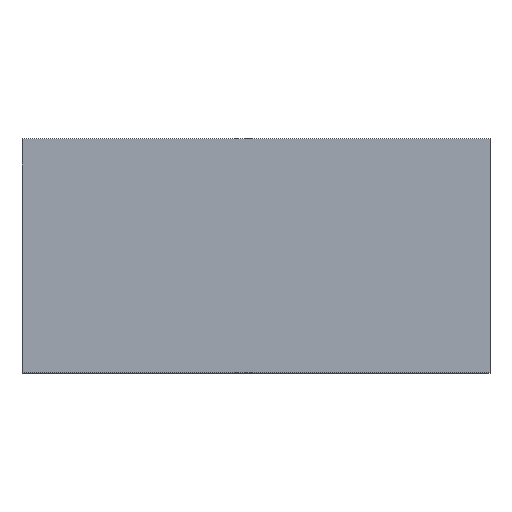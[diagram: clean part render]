
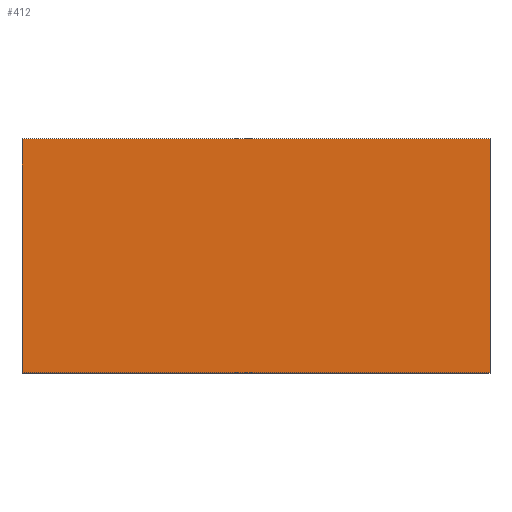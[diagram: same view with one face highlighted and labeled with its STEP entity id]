
A CAD part, top view. The second image highlights one B-rep face of the part: STEP entity #412.
In plain terms, the highlighted planar face has unit normal (0, 0, 1) as drawn and (0, 0, -1) by its records, which use the part's own axes.
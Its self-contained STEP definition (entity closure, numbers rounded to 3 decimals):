
#412=ADVANCED_FACE('',(#795),#797,.F.);
#795=FACE_BOUND('',#796,.T.);
#796=EDGE_LOOP('',(#1055,#1056,#1057,#1058));
#797=PLANE('',#798);
#798=AXIS2_PLACEMENT_3D('',#799,#800,#801);
#799=CARTESIAN_POINT('',(0.,0.,-0.025));
#800=DIRECTION('',(0.,0.,1.));
#801=DIRECTION('',(1.,0.,0.));
#1055=ORIENTED_EDGE('',*,*,#1219,.F.);
#1056=ORIENTED_EDGE('',*,*,#1216,.F.);
#1057=ORIENTED_EDGE('',*,*,#1213,.F.);
#1058=ORIENTED_EDGE('',*,*,#1209,.F.);
#1209=EDGE_CURVE('',#1352,#1353,#1354,.T.);
#1213=EDGE_CURVE('',#1353,#1360,#1361,.T.);
#1216=EDGE_CURVE('',#1360,#1365,#1366,.T.);
#1219=EDGE_CURVE('',#1365,#1352,#1370,.T.);
#1352=VERTEX_POINT('',#1633);
#1353=VERTEX_POINT('',#1634);
#1354=LINE('',#1635,#1636);
#1360=VERTEX_POINT('',#1649);
#1361=LINE('',#1650,#1651);
#1365=VERTEX_POINT('',#1660);
#1366=LINE('',#1661,#1662);
#1370=LINE('',#1671,#1672);
#1633=CARTESIAN_POINT('',(0.8,-0.4,-0.025));
#1634=CARTESIAN_POINT('',(0.8,0.4,-0.025));
#1635=CARTESIAN_POINT('',(0.8,-0.4,-0.025));
#1636=VECTOR('',#1637,1.);
#1637=DIRECTION('',(0.,1.,0.));
#1649=CARTESIAN_POINT('',(-0.8,0.4,-0.025));
#1650=CARTESIAN_POINT('',(0.8,0.4,-0.025));
#1651=VECTOR('',#1652,1.);
#1652=DIRECTION('',(-1.,0.,0.));
#1660=CARTESIAN_POINT('',(-0.8,-0.4,-0.025));
#1661=CARTESIAN_POINT('',(-0.8,0.4,-0.025));
#1662=VECTOR('',#1663,1.);
#1663=DIRECTION('',(0.,-1.,0.));
#1671=CARTESIAN_POINT('',(-0.8,-0.4,-0.025));
#1672=VECTOR('',#1673,1.);
#1673=DIRECTION('',(1.,0.,0.));
